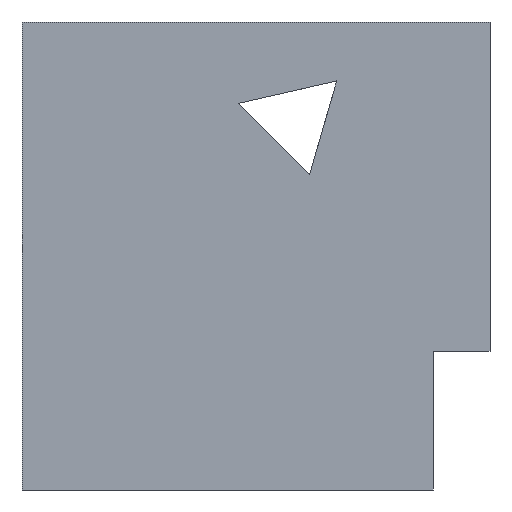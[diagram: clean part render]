
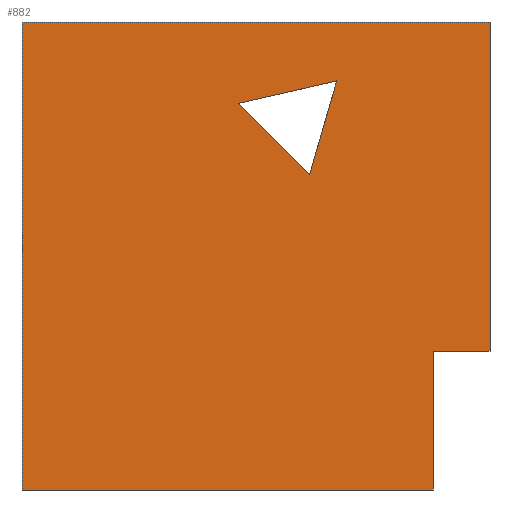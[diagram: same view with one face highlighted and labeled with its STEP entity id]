
A CAD part, front view. The second image highlights one B-rep face of the part: STEP entity #882.
In plain terms, the highlighted planar face has unit normal (0, -1, 0).
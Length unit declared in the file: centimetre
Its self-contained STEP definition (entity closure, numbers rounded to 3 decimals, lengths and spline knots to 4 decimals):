
#41 = VERTEX_POINT ( 'NONE', #289 ) ;
#48 = ORIENTED_EDGE ( 'NONE', *, *, #1177, .F. ) ;
#51 = VERTEX_POINT ( 'NONE', #1481 ) ;
#104 = ORIENTED_EDGE ( 'NONE', *, *, #1194, .F. ) ;
#116 = VECTOR ( 'NONE', #1527, 100. ) ;
#152 = LINE ( 'NONE', #967, #1448 ) ;
#174 = VECTOR ( 'NONE', #353, 100. ) ;
#187 = EDGE_CURVE ( 'NONE', #41, #1375, #152, .T. ) ;
#208 = VERTEX_POINT ( 'NONE', #381 ) ;
#225 = VECTOR ( 'NONE', #1269, 100. ) ;
#229 = LINE ( 'NONE', #955, #742 ) ;
#237 = LINE ( 'NONE', #1328, #1385 ) ;
#245 = CARTESIAN_POINT ( 'NONE',  ( 879.0149, 0., 0. ) ) ;
#258 = LINE ( 'NONE', #361, #399 ) ;
#278 = ORIENTED_EDGE ( 'NONE', *, *, #807, .F. ) ;
#289 = CARTESIAN_POINT ( 'NONE',  ( 1000., 0., 296.8698 ) ) ;
#345 = FACE_OUTER_BOUND ( 'NONE', #760, .T. ) ;
#353 = DIRECTION ( 'NONE',  ( 0., 0., -1. ) ) ;
#355 = VERTEX_POINT ( 'NONE', #806 ) ;
#358 = FACE_BOUND ( 'NONE', #1129, .T. ) ;
#361 = CARTESIAN_POINT ( 'NONE',  ( 672.4754, 0., 874.037 ) ) ;
#366 = VECTOR ( 'NONE', #1540, 100. ) ;
#381 = CARTESIAN_POINT ( 'NONE',  ( 0., 0., 0. ) ) ;
#397 = LINE ( 'NONE', #784, #225 ) ;
#399 = VECTOR ( 'NONE', #970, 100. ) ;
#445 = CARTESIAN_POINT ( 'NONE',  ( 1000., 0., 1000. ) ) ;
#484 = LINE ( 'NONE', #1440, #1258 ) ;
#510 = EDGE_CURVE ( 'NONE', #845, #208, #694, .T. ) ;
#526 = VERTEX_POINT ( 'NONE', #1421 ) ;
#589 = CARTESIAN_POINT ( 'NONE',  ( 0., 0., 1000. ) ) ;
#631 = ORIENTED_EDGE ( 'NONE', *, *, #874, .F. ) ;
#672 = LINE ( 'NONE', #909, #116 ) ;
#683 = CARTESIAN_POINT ( 'NONE',  ( 614.4275, 0., 673.2932 ) ) ;
#684 = ORIENTED_EDGE ( 'NONE', *, *, #1416, .T. ) ;
#694 = LINE ( 'NONE', #1174, #366 ) ;
#704 = DIRECTION ( 'NONE',  ( 0., 1., 0. ) ) ;
#742 = VECTOR ( 'NONE', #1441, 100. ) ;
#744 = CARTESIAN_POINT ( 'NONE',  ( 879.0149, 0., 296.8698 ) ) ;
#760 = EDGE_LOOP ( 'NONE', ( #684, #278, #1267, #1340, #48, #1253 ) ) ;
#784 = CARTESIAN_POINT ( 'NONE',  ( 1000., 0., 1000. ) ) ;
#806 = CARTESIAN_POINT ( 'NONE',  ( 461.6551, 0., 826.0655 ) ) ;
#807 = EDGE_CURVE ( 'NONE', #1375, #526, #821, .T. ) ;
#821 = LINE ( 'NONE', #245, #174 ) ;
#838 = DIRECTION ( 'NONE',  ( 0.278, 0., 0.961 ) ) ;
#845 = VERTEX_POINT ( 'NONE', #589 ) ;
#874 = EDGE_CURVE ( 'NONE', #355, #1427, #229, .T. ) ;
#882 = ADVANCED_FACE ( 'NONE', ( #358, #345 ), #1198, .F. ) ;
#909 = CARTESIAN_POINT ( 'NONE',  ( 0., 0., 0. ) ) ;
#955 = CARTESIAN_POINT ( 'NONE',  ( 461.6551, 0., 826.0655 ) ) ;
#967 = CARTESIAN_POINT ( 'NONE',  ( 879.0149, 0., 296.8698 ) ) ;
#970 = DIRECTION ( 'NONE',  ( -0.975, 0., -0.222 ) ) ;
#1069 = DIRECTION ( 'NONE',  ( 1., 0., 0. ) ) ;
#1078 = CARTESIAN_POINT ( 'NONE',  ( 0., 0., 1000. ) ) ;
#1129 = EDGE_LOOP ( 'NONE', ( #631, #1457, #104 ) ) ;
#1174 = CARTESIAN_POINT ( 'NONE',  ( 0., 0., 1000. ) ) ;
#1177 = EDGE_CURVE ( 'NONE', #845, #1458, #237, .T. ) ;
#1194 = EDGE_CURVE ( 'NONE', #1427, #51, #484, .T. ) ;
#1198 = PLANE ( 'NONE',  #1485 ) ;
#1245 = EDGE_CURVE ( 'NONE', #51, #355, #258, .T. ) ;
#1253 = ORIENTED_EDGE ( 'NONE', *, *, #510, .T. ) ;
#1258 = VECTOR ( 'NONE', #838, 100. ) ;
#1267 = ORIENTED_EDGE ( 'NONE', *, *, #187, .F. ) ;
#1269 = DIRECTION ( 'NONE',  ( 0., 0., -1. ) ) ;
#1328 = CARTESIAN_POINT ( 'NONE',  ( 0., 0., 1000. ) ) ;
#1340 = ORIENTED_EDGE ( 'NONE', *, *, #1384, .F. ) ;
#1375 = VERTEX_POINT ( 'NONE', #744 ) ;
#1384 = EDGE_CURVE ( 'NONE', #1458, #41, #397, .T. ) ;
#1385 = VECTOR ( 'NONE', #1069, 100. ) ;
#1416 = EDGE_CURVE ( 'NONE', #208, #526, #672, .T. ) ;
#1421 = CARTESIAN_POINT ( 'NONE',  ( 879.0149, 0., 0. ) ) ;
#1427 = VERTEX_POINT ( 'NONE', #683 ) ;
#1440 = CARTESIAN_POINT ( 'NONE',  ( 614.4275, 0., 673.2932 ) ) ;
#1441 = DIRECTION ( 'NONE',  ( 0.707, 0., -0.707 ) ) ;
#1446 = DIRECTION ( 'NONE',  ( 0., 0., 1. ) ) ;
#1448 = VECTOR ( 'NONE', #1470, 100. ) ;
#1457 = ORIENTED_EDGE ( 'NONE', *, *, #1245, .F. ) ;
#1458 = VERTEX_POINT ( 'NONE', #445 ) ;
#1470 = DIRECTION ( 'NONE',  ( -1., 0., 0. ) ) ;
#1481 = CARTESIAN_POINT ( 'NONE',  ( 672.4754, 0., 874.037 ) ) ;
#1485 = AXIS2_PLACEMENT_3D ( 'NONE', #1078, #704, #1446 ) ;
#1527 = DIRECTION ( 'NONE',  ( 1., 0., 0. ) ) ;
#1540 = DIRECTION ( 'NONE',  ( 0., 0., -1. ) ) ;
